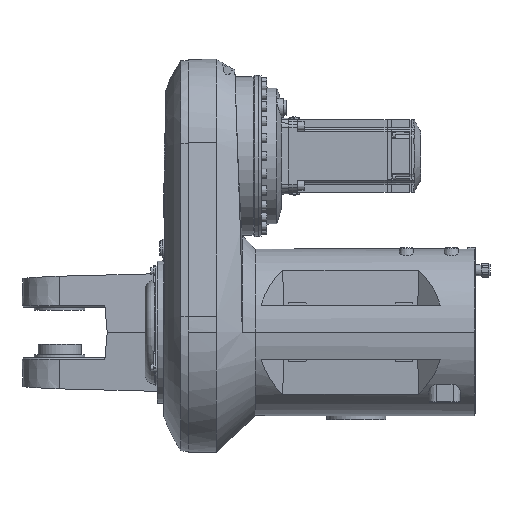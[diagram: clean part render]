
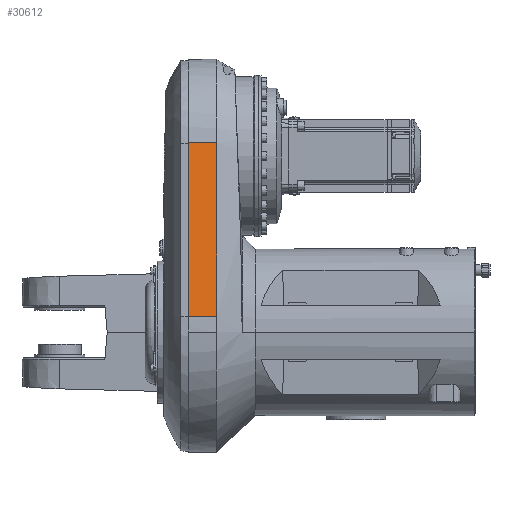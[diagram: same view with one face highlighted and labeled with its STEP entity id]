
A CAD part, top view. The second image highlights one B-rep face of the part: STEP entity #30612.
In plain terms, the highlighted planar face has unit normal (0, 0.133, 0.991).
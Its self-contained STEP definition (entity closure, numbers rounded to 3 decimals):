
#327 = CARTESIAN_POINT ( 'NONE',  ( 70.735, 321.952, 2698.623 ) ) ;
#3035 = DIRECTION ( 'NONE',  ( 0., 0.133, 0.991 ) ) ;
#3920 = LINE ( 'NONE', #23666, #52077 ) ;
#4420 = VECTOR ( 'NONE', #52385, 1000. ) ;
#5160 = CARTESIAN_POINT ( 'NONE',  ( 70.383, 170.475, 2719.002 ) ) ;
#6979 = CARTESIAN_POINT ( 'NONE',  ( 70.154, 28.667, 2738.08 ) ) ;
#7884 = VERTEX_POINT ( 'NONE', #53694 ) ;
#8232 = EDGE_CURVE ( 'NONE', #60224, #24706, #54623, .T. ) ;
#8306 = EDGE_CURVE ( 'NONE', #28380, #7884, #45902, .T. ) ;
#8477 = FACE_OUTER_BOUND ( 'NONE', #15351, .T. ) ;
#9102 = EDGE_CURVE ( 'NONE', #7884, #60224, #3920, .T. ) ;
#9365 = CARTESIAN_POINT ( 'NONE',  ( 70.287, 118.908, 2725.94 ) ) ;
#10319 = CARTESIAN_POINT ( 'NONE',  ( 70.189, 54.45, 2734.612 ) ) ;
#10642 = CARTESIAN_POINT ( 'NONE',  ( 70.253, 93.125, 2729.408 ) ) ;
#11921 = DIRECTION ( 'NONE',  ( 0., 0.991, -0.133 ) ) ;
#12870 = CARTESIAN_POINT ( 'NONE',  ( -5., 28.667, 2738.08 ) ) ;
#14247 = CARTESIAN_POINT ( 'NONE',  ( 70.187, 60.896, 2733.744 ) ) ;
#14572 = CARTESIAN_POINT ( 'NONE',  ( 70.845, 334.844, 2696.889 ) ) ;
#15351 = EDGE_LOOP ( 'NONE', ( #31331, #59946, #22025, #34968 ) ) ;
#15502 = CARTESIAN_POINT ( 'NONE',  ( 70.65, 305.838, 2700.791 ) ) ;
#17753 = LINE ( 'NONE', #12870, #4420 ) ;
#19113 = CARTESIAN_POINT ( 'NONE',  ( 70.629, 273.608, 2705.127 ) ) ;
#19735 = CARTESIAN_POINT ( 'NONE',  ( 70.154, 28.667, 2738.08 ) ) ;
#20024 = CARTESIAN_POINT ( 'NONE',  ( 70.313, 131.8, 2724.205 ) ) ;
#22025 = ORIENTED_EDGE ( 'NONE', *, *, #8232, .F. ) ;
#23666 = CARTESIAN_POINT ( 'NONE',  ( -5., 338.067, 2696.455 ) ) ;
#23987 = CARTESIAN_POINT ( 'NONE',  ( 70.638, 292.946, 2702.526 ) ) ;
#24299 = CARTESIAN_POINT ( 'NONE',  ( 70.233, 35.112, 2737.213 ) ) ;
#24706 = VERTEX_POINT ( 'NONE', #6979 ) ;
#25215 = CARTESIAN_POINT ( 'NONE',  ( 70.191, 64.119, 2733.311 ) ) ;
#28380 = VERTEX_POINT ( 'NONE', #43677 ) ;
#29136 = CARTESIAN_POINT ( 'NONE',  ( 70.26, 99.571, 2728.541 ) ) ;
#30612 = ADVANCED_FACE ( 'NONE', ( #8477 ), #47966, .T. ) ;
#31317 = CARTESIAN_POINT ( 'NONE',  ( 20., 28.667, 2738.08 ) ) ;
#31331 = ORIENTED_EDGE ( 'NONE', *, *, #8306, .F. ) ;
#32131 = EDGE_CURVE ( 'NONE', #28380, #24706, #17753, .T. ) ;
#33950 = CARTESIAN_POINT ( 'NONE',  ( 70.641, 286.5, 2703.393 ) ) ;
#34559 = CARTESIAN_POINT ( 'NONE',  ( 70.21, 73.788, 2732.01 ) ) ;
#34877 = CARTESIAN_POINT ( 'NONE',  ( 70.23, 80.233, 2731.143 ) ) ;
#34968 = ORIENTED_EDGE ( 'NONE', *, *, #9102, .F. ) ;
#35002 = AXIS2_PLACEMENT_3D ( 'NONE', #42141, #3035, #56721 ) ;
#35200 = CARTESIAN_POINT ( 'NONE',  ( 70.829, 331.621, 2697.323 ) ) ;
#38797 = CARTESIAN_POINT ( 'NONE',  ( 70.52, 234.933, 2710.33 ) ) ;
#39125 = CARTESIAN_POINT ( 'NONE',  ( 70.197, 51.227, 2735.045 ) ) ;
#39738 = CARTESIAN_POINT ( 'NONE',  ( 70.558, 247.825, 2708.596 ) ) ;
#42141 = CARTESIAN_POINT ( 'NONE',  ( -5., 28.667, 2738.08 ) ) ;
#43677 = CARTESIAN_POINT ( 'NONE',  ( 20., 28.667, 2738.08 ) ) ;
#43691 = CARTESIAN_POINT ( 'NONE',  ( 70.782, 326.786, 2697.973 ) ) ;
#44008 = CARTESIAN_POINT ( 'NONE',  ( 70.504, 228.488, 2711.197 ) ) ;
#45902 = LINE ( 'NONE', #31317, #61860 ) ;
#47966 = PLANE ( 'NONE',  #35002 ) ;
#48896 = CARTESIAN_POINT ( 'NONE',  ( 70.222, 41.558, 2736.346 ) ) ;
#52077 = VECTOR ( 'NONE', #52808, 1000. ) ;
#52385 = DIRECTION ( 'NONE',  ( 1., 0., 0. ) ) ;
#52808 = DIRECTION ( 'NONE',  ( 1., 0., 0. ) ) ;
#53694 = CARTESIAN_POINT ( 'NONE',  ( 20., 338.067, 2696.455 ) ) ;
#53765 = CARTESIAN_POINT ( 'NONE',  ( 70.614, 267.163, 2705.994 ) ) ;
#54074 = CARTESIAN_POINT ( 'NONE',  ( 70.359, 157.583, 2720.737 ) ) ;
#54383 = CARTESIAN_POINT ( 'NONE',  ( 70.778, 338.067, 2696.455 ) ) ;
#54623 = B_SPLINE_CURVE_WITH_KNOTS ( 'NONE', 3,
 ( #54383, #14572, #35200, #43691, #54703, #327, #59815, #58562, #15502, #23987, #33950, #19113, #53765, #59184, #39738, #38797, #44008, #55003, #63421, #5160, #54074, #20024, #9365, #29136, #10642, #34877, #34559, #25215, #14247, #10319, #39125, #48896, #24299, #19735 ),
 .UNSPECIFIED., .F., .F.,
 ( 4, 2, 2, 2, 2, 2, 2, 2, 2, 2, 2, 2, 2, 2, 2, 2, 4 ),
 ( 0., 0.01, 0.015, 0.02, 0.039, 0.059, 0.078, 0.098, 0.117, 0.156, 0.195, 0.234, 0.254, 0.273, 0.283, 0.293, 0.312 ),
 .UNSPECIFIED. ) ;
#54703 = CARTESIAN_POINT ( 'NONE',  ( 70.764, 325.175, 2698.19 ) ) ;
#55003 = CARTESIAN_POINT ( 'NONE',  ( 70.462, 209.15, 2713.799 ) ) ;
#55760 = CARTESIAN_POINT ( 'NONE',  ( 70.778, 338.067, 2696.455 ) ) ;
#56721 = DIRECTION ( 'NONE',  ( 0., -0.991, 0.133 ) ) ;
#58562 = CARTESIAN_POINT ( 'NONE',  ( 70.666, 312.283, 2699.924 ) ) ;
#59184 = CARTESIAN_POINT ( 'NONE',  ( 70.579, 254.271, 2707.729 ) ) ;
#59815 = CARTESIAN_POINT ( 'NONE',  ( 70.722, 320.341, 2698.84 ) ) ;
#59946 = ORIENTED_EDGE ( 'NONE', *, *, #32131, .T. ) ;
#60224 = VERTEX_POINT ( 'NONE', #55760 ) ;
#61860 = VECTOR ( 'NONE', #11921, 1000. ) ;
#63421 = CARTESIAN_POINT ( 'NONE',  ( 70.435, 196.258, 2715.533 ) ) ;
